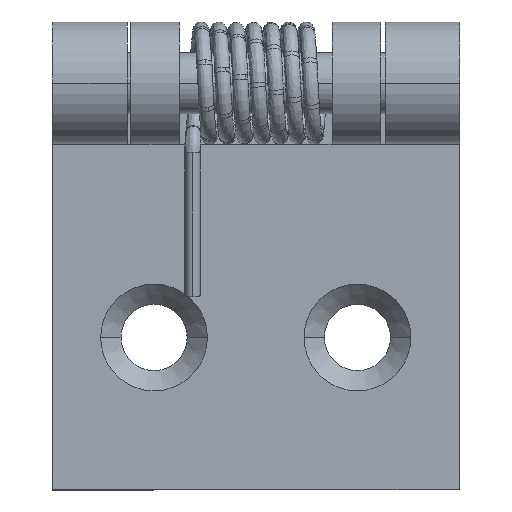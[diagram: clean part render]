
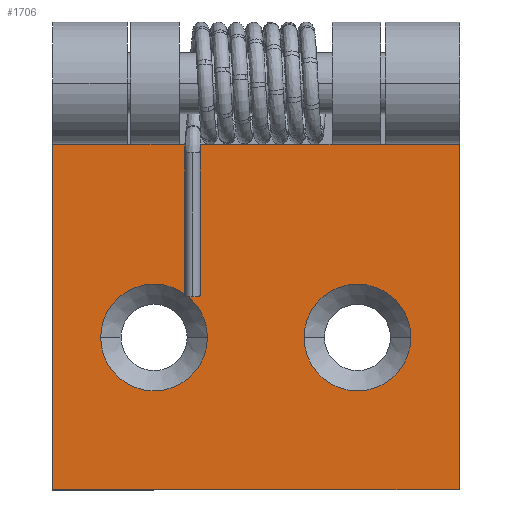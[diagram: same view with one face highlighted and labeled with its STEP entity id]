
A CAD part, left-side view. The second image highlights one B-rep face of the part: STEP entity #1706.
In plain terms, the highlighted planar face has unit normal (-1, 0, 0) as drawn and (0, 1, 0) by its records, which use the part's own axes.
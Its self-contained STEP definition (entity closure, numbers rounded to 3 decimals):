
#1168=CARTESIAN_POINT('',(25.5,-2.0,-17.3));
#1169=VERTEX_POINT('',#1168);
#1177=CARTESIAN_POINT('',(25.5,-2.0,-12.5));
#1178=VERTEX_POINT('',#1177);
#1179=CARTESIAN_POINT('',(25.5,-2.0,-17.3));
#1180=DIRECTION('',(0.0,0.0,1.0));
#1181=VECTOR('',#1180,4.8);
#1182=LINE('',#1179,#1181);
#1183=EDGE_CURVE('',#1169,#1178,#1182,.T.);
#1252=CARTESIAN_POINT('',(25.5,-2.0,2.5));
#1253=VERTEX_POINT('',#1252);
#1261=CARTESIAN_POINT('',(25.5,-2.0,7.3));
#1262=VERTEX_POINT('',#1261);
#1263=CARTESIAN_POINT('',(25.5,-2.0,2.5));
#1264=DIRECTION('',(0.0,0.0,1.0));
#1265=VECTOR('',#1264,4.8);
#1266=LINE('',#1263,#1265);
#1267=EDGE_CURVE('',#1253,#1262,#1266,.T.);
#1476=CARTESIAN_POINT('',(0.5,-2.0,-20.25));
#1477=VERTEX_POINT('',#1476);
#1491=CARTESIAN_POINT('',(0.5,-2.0,-9.75));
#1492=VERTEX_POINT('',#1491);
#1499=CARTESIAN_POINT('',(0.5,-2.0,-15.0));
#1500=DIRECTION('',(0.0,1.0,0.0));
#1501=DIRECTION('',(0.0,0.0,-1.0));
#1502=AXIS2_PLACEMENT_3D('',#1499,#1500,#1501);
#1503=CIRCLE('',#1502,5.25);
#1504=EDGE_CURVE('',#1492,#1477,#1503,.T.);
#1556=CARTESIAN_POINT('',(0.5,-2.0,-0.25));
#1557=VERTEX_POINT('',#1556);
#1571=CARTESIAN_POINT('',(0.5,-2.0,10.25));
#1572=VERTEX_POINT('',#1571);
#1579=CARTESIAN_POINT('',(0.5,-2.0,5.0));
#1580=DIRECTION('',(0.0,1.0,0.0));
#1581=DIRECTION('',(0.0,0.0,-1.0));
#1582=AXIS2_PLACEMENT_3D('',#1579,#1580,#1581);
#1583=CIRCLE('',#1582,5.25);
#1584=EDGE_CURVE('',#1572,#1557,#1583,.T.);
#1595=CARTESIAN_POINT('',(0.5,-2.0,5.0));
#1596=DIRECTION('',(0.0,1.0,0.0));
#1597=DIRECTION('',(0.0,0.0,-1.0));
#1598=AXIS2_PLACEMENT_3D('',#1595,#1596,#1597);
#1599=CIRCLE('',#1598,5.25);
#1600=EDGE_CURVE('',#1557,#1572,#1599,.T.);
#1607=CARTESIAN_POINT('',(-14.5,-2.0,-25.0));
#1608=DIRECTION('',(0.0,1.0,0.0));
#1609=DIRECTION('',(0.0,0.0,1.0));
#1610=AXIS2_PLACEMENT_3D('',#1607,#1608,#1609);
#1611=PLANE('',#1610);
#1612=CARTESIAN_POINT('',(19.5,-2.0,-17.3));
#1613=VERTEX_POINT('',#1612);
#1614=CARTESIAN_POINT('',(19.5,-2.0,-25.0));
#1615=VERTEX_POINT('',#1614);
#1616=CARTESIAN_POINT('',(19.5,-2.0,-17.3));
#1617=DIRECTION('',(0.0,0.0,-1.0));
#1618=VECTOR('',#1617,7.7);
#1619=LINE('',#1616,#1618);
#1620=EDGE_CURVE('',#1613,#1615,#1619,.T.);
#1621=ORIENTED_EDGE('',*,*,#1620,.T.);
#1622=CARTESIAN_POINT('',(-14.5,-2.0,-25.0));
#1623=VERTEX_POINT('',#1622);
#1624=CARTESIAN_POINT('',(19.5,-2.0,-25.0));
#1625=DIRECTION('',(-1.0,0.0,0.0));
#1626=VECTOR('',#1625,34.);
#1627=LINE('',#1624,#1626);
#1628=EDGE_CURVE('',#1615,#1623,#1627,.T.);
#1629=ORIENTED_EDGE('',*,*,#1628,.T.);
#1630=CARTESIAN_POINT('',(-14.5,-2.0,15.0));
#1631=VERTEX_POINT('',#1630);
#1632=CARTESIAN_POINT('',(-14.5,-2.0,-25.0));
#1633=DIRECTION('',(0.0,0.0,1.0));
#1634=VECTOR('',#1633,40.0);
#1635=LINE('',#1632,#1634);
#1636=EDGE_CURVE('',#1623,#1631,#1635,.T.);
#1637=ORIENTED_EDGE('',*,*,#1636,.T.);
#1638=CARTESIAN_POINT('',(19.5,-2.0,15.));
#1639=VERTEX_POINT('',#1638);
#1640=CARTESIAN_POINT('',(-14.5,-2.0,15.0));
#1641=DIRECTION('',(1.0,0.0,0.0));
#1642=VECTOR('',#1641,34.0);
#1643=LINE('',#1640,#1642);
#1644=EDGE_CURVE('',#1631,#1639,#1643,.T.);
#1645=ORIENTED_EDGE('',*,*,#1644,.T.);
#1646=CARTESIAN_POINT('',(19.5,-2.0,7.3));
#1647=VERTEX_POINT('',#1646);
#1648=CARTESIAN_POINT('',(19.5,-2.0,15.));
#1649=DIRECTION('',(0.0,0.0,-1.0));
#1650=VECTOR('',#1649,7.7);
#1651=LINE('',#1648,#1650);
#1652=EDGE_CURVE('',#1639,#1647,#1651,.T.);
#1653=ORIENTED_EDGE('',*,*,#1652,.T.);
#1654=CARTESIAN_POINT('',(19.5,-2.0,7.3));
#1655=DIRECTION('',(1.0,0.0,0.0));
#1656=VECTOR('',#1655,6.);
#1657=LINE('',#1654,#1656);
#1658=EDGE_CURVE('',#1647,#1262,#1657,.T.);
#1659=ORIENTED_EDGE('',*,*,#1658,.T.);
#1660=ORIENTED_EDGE('',*,*,#1267,.F.);
#1661=CARTESIAN_POINT('',(19.5,-2.0,2.5));
#1662=VERTEX_POINT('',#1661);
#1663=CARTESIAN_POINT('',(25.5,-2.0,2.5));
#1664=DIRECTION('',(-1.0,0.0,0.0));
#1665=VECTOR('',#1664,6.);
#1666=LINE('',#1663,#1665);
#1667=EDGE_CURVE('',#1253,#1662,#1666,.T.);
#1668=ORIENTED_EDGE('',*,*,#1667,.T.);
#1669=CARTESIAN_POINT('',(19.5,-2.0,-12.5));
#1670=VERTEX_POINT('',#1669);
#1671=CARTESIAN_POINT('',(19.5,-2.0,2.5));
#1672=DIRECTION('',(0.0,0.0,-1.0));
#1673=VECTOR('',#1672,15.0);
#1674=LINE('',#1671,#1673);
#1675=EDGE_CURVE('',#1662,#1670,#1674,.T.);
#1676=ORIENTED_EDGE('',*,*,#1675,.T.);
#1677=CARTESIAN_POINT('',(19.5,-2.0,-12.5));
#1678=DIRECTION('',(1.0,0.0,0.0));
#1679=VECTOR('',#1678,6.);
#1680=LINE('',#1677,#1679);
#1681=EDGE_CURVE('',#1670,#1178,#1680,.T.);
#1682=ORIENTED_EDGE('',*,*,#1681,.T.);
#1683=ORIENTED_EDGE('',*,*,#1183,.F.);
#1684=CARTESIAN_POINT('',(25.5,-2.0,-17.3));
#1685=DIRECTION('',(-1.0,0.0,0.0));
#1686=VECTOR('',#1685,6.);
#1687=LINE('',#1684,#1686);
#1688=EDGE_CURVE('',#1169,#1613,#1687,.T.);
#1689=ORIENTED_EDGE('',*,*,#1688,.T.);
#1690=EDGE_LOOP('',(#1621,#1629,#1637,#1645,#1653,#1659,#1660,#1668,#1676,#1682,#1683,#1689));
#1691=FACE_OUTER_BOUND('',#1690,.T.);
#1692=ORIENTED_EDGE('',*,*,#1504,.F.);
#1693=CARTESIAN_POINT('',(0.5,-2.0,-15.0));
#1694=DIRECTION('',(0.0,1.0,0.0));
#1695=DIRECTION('',(0.0,0.0,-1.0));
#1696=AXIS2_PLACEMENT_3D('',#1693,#1694,#1695);
#1697=CIRCLE('',#1696,5.25);
#1698=EDGE_CURVE('',#1477,#1492,#1697,.T.);
#1699=ORIENTED_EDGE('',*,*,#1698,.F.);
#1700=EDGE_LOOP('',(#1692,#1699));
#1701=FACE_BOUND('',#1700,.T.);
#1702=ORIENTED_EDGE('',*,*,#1584,.F.);
#1703=ORIENTED_EDGE('',*,*,#1600,.F.);
#1704=EDGE_LOOP('',(#1702,#1703));
#1705=FACE_BOUND('',#1704,.T.);
#1706=ADVANCED_FACE('',(#1691,#1701,#1705),#1611,.T.);
